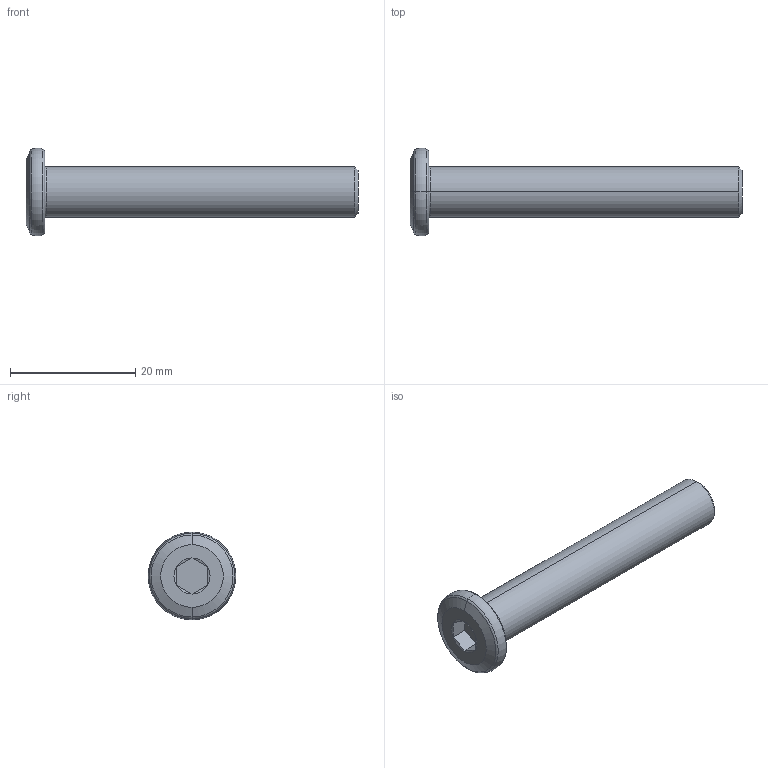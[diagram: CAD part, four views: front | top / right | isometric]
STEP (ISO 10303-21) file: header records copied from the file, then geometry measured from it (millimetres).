
FILE_DESCRIPTION (( 'STEP AP203' ), '1' );
FILE_NAME ('LGD-304D-M8x50.STEP', '2026-08-13T08:30:23', ( '' ), ( '' ), 'SwSTEP 2.0', 'SolidWorks 2020', '' );
FILE_SCHEMA (( 'CONFIG_CONTROL_DESIGN' ));
Length unit declared in the file: millimetre
Products named in the file (1): LGD-304D-M8x50
Bounding box: 53 x 14 x 14 mm (x, y, z)
Volume: 2871.7 mm3; surface area: 1680.7 mm2
Topology: 1 solids, 1 shells, 30 faces, 56 edges, 30 vertices
Faces by surface type: cone 10, plane 10, torus 8, cylinder 2
Entity records: 827 total; most frequent: DIRECTION 144, CARTESIAN_POINT 143, ORIENTED_EDGE 112, AXIS2_PLACEMENT_3D 63, EDGE_CURVE 56, EDGE_LOOP 32, CIRCLE 32, ADVANCED_FACE 30
